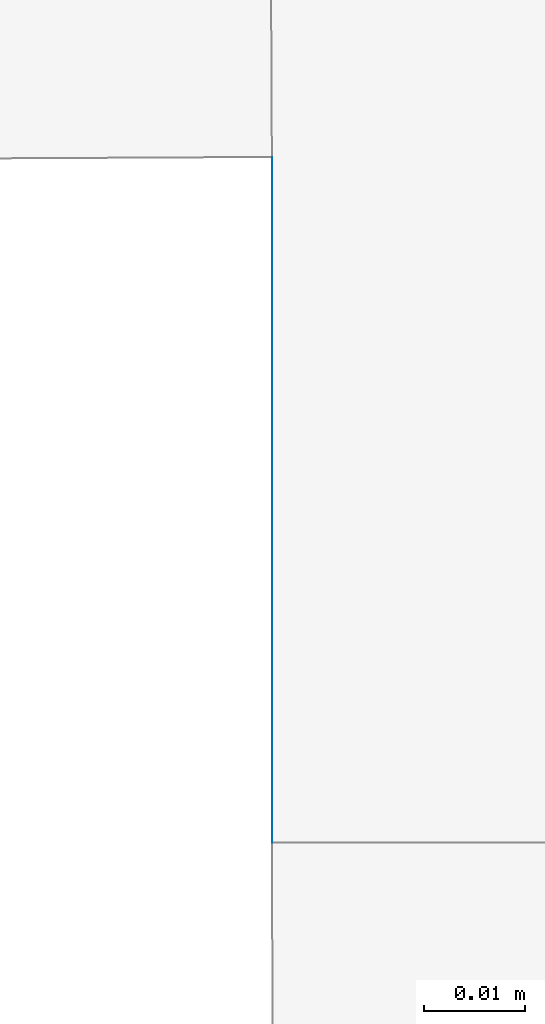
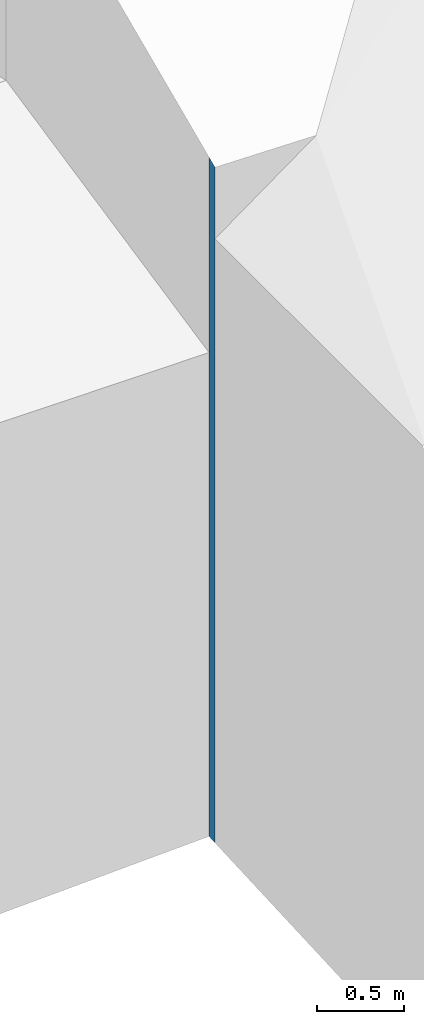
# Not in any storey, part 27 of 57: 1 wall.
"""IFC2X3 building model written with IfcOpenShell, lengths in metres."""

from ifc_helpers import new_model, entity, si_unit, converted_unit, origin, place, context, subcontext, project, spatial, face_set, surface_model, element, save


model = new_model("IFC2X3")

# Units and contexts
model_context = context("Model", 3, precision=1e-05, world=origin())
body_context = subcontext(model_context, "Body", "Model", "MODEL_VIEW")
ifc_project = project(units=[converted_unit("PLANEANGLEUNIT", "DEGREE", entity("IfcRatioMeasure", 0.0174532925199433), si_unit("PLANEANGLEUNIT", "RADIAN"), dimensions=[0, 0, 0, 0, 0, 0, 0]), si_unit("AREAUNIT", "SQUARE_METRE"), si_unit("LENGTHUNIT", "METRE")], contexts=[model_context])

# Site, building
site_placement = place(None, origin())
site = spatial("IfcSite", under=ifc_project, at=site_placement, Name="_site", CompositionType="ELEMENT")
building_placement = place(site_placement, origin())
building = spatial("IfcBuilding", under=site, at=building_placement, Name="_building", CompositionType="ELEMENT")

# Wall
wall_placement = place(building_placement, origin())
element("IfcWall", 1, at=wall_placement, inside=building, Name="Wall", context=body_context, shape_type="SurfaceModel", body=[
    surface_model("IfcFaceBasedSurfaceModel", [(152.33, 201.971, 220.16), (152.33, 202.039, 220.19), (152.33, 202.039, 215.429), (152.33, 201.971, 215.425)], [face_set([[[0, 1, 2, 3]]])]),
])

save(model, "model.ifc")
